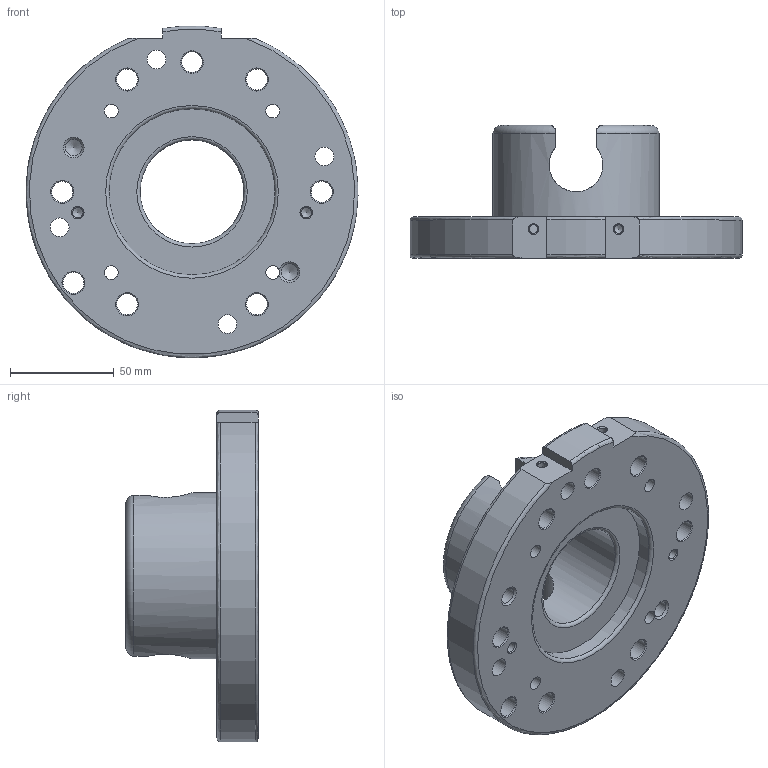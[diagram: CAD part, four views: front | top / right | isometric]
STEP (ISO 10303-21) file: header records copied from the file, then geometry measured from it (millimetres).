
FILE_DESCRIPTION(/* description */ (''),/* implementation_level */ '2;1');
FILE_NAME(/* name */ '\\dc01\daten\CAD\Standard\Daten\3D-Datenbank\SHW\4 - 3D-CAD-Daten SHW\SHW160\step-Daten\G-SHW160-2UE-BC01 LT.stp',/* time_stamp */ '2022-05-25T08:36:24+02:00',/* author */ ('ysplieth'),/* organization */ (''),/* preprocessor_version */ 'ST-DEVELOPER v17',/* originating_system */ 'Autodesk Inventor 2018',/* authorisation */ '');
FILE_SCHEMA (('AUTOMOTIVE_DESIGN { 1 0 10303 214 3 1 1 }'));
Length unit declared in the file: millimetre
Products named in the file (1): Bauteil2
Bounding box: 159.96 x 64 x 159.86 mm (x, y, z)
Volume: 408929.7 mm3; surface area: 76445.9 mm2
Topology: 1 solids, 1 shells, 111 faces, 306 edges, 211 vertices
Faces by surface type: cylinder 43, plane 31, cone 27, torus 10
Full cylindrical faces by diameter (mm): 4.134 x2, 5 x2, 6.6 x4, 8 x2, 9 x4, 10 x1, 10.1 x1, 10.106 x6, 11 x4, 15 x4, 18 x6, 50 x1, 80 x2
Entity records: 4163 total; most frequent: CARTESIAN_POINT 1011, DIRECTION 672, ORIENTED_EDGE 602, EDGE_CURVE 301, AXIS2_PLACEMENT_3D 286, VERTEX_POINT 211, CIRCLE 170, EDGE_LOOP 166
